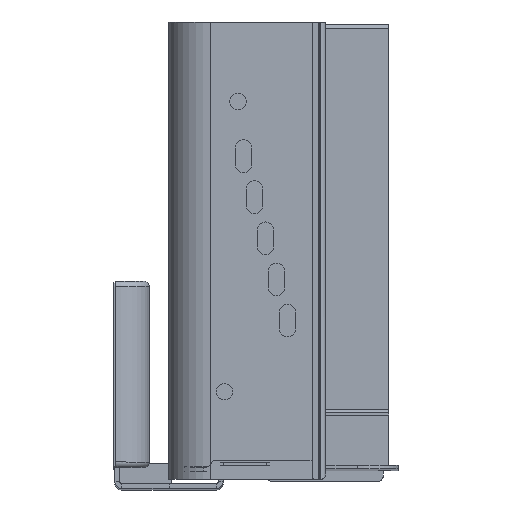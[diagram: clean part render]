
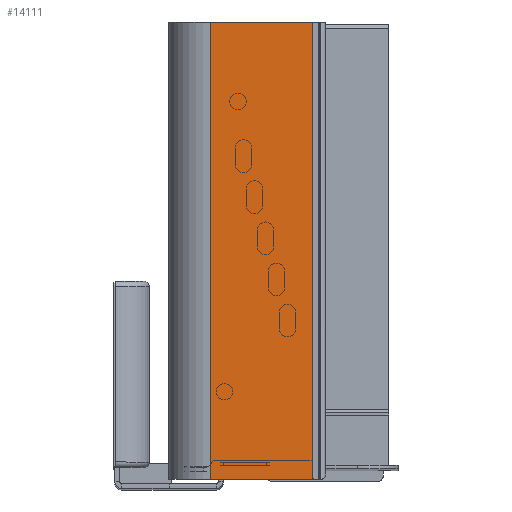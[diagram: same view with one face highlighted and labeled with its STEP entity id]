
A CAD part, top view. The second image highlights one B-rep face of the part: STEP entity #14111.
In plain terms, the highlighted planar face has unit normal (0, 0, 1).
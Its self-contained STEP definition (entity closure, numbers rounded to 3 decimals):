
#549=DIRECTION('',(-1.,0.,0.));
#550=VECTOR('',#549,38.);
#551=CARTESIAN_POINT('',(54.5,0.,225.5));
#552=LINE('',#551,#550);
#4495=DIRECTION('',(-1.,0.,0.));
#4496=VECTOR('',#4495,38.);
#4497=CARTESIAN_POINT('',(54.5,167.,225.5));
#4498=LINE('',#4497,#4496);
#4538=DIRECTION('',(0.,1.,0.));
#4539=VECTOR('',#4538,163.);
#4540=CARTESIAN_POINT('',(56.5,2.,225.5));
#4541=LINE('',#4540,#4539);
#4542=CARTESIAN_POINT('',(54.5,2.,225.5));
#4543=DIRECTION('',(0.,0.,1.));
#4544=DIRECTION('',(0.,-1.,0.));
#4545=AXIS2_PLACEMENT_3D('',#4542,#4543,#4544);
#4547=CARTESIAN_POINT('',(54.5,165.,225.5));
#4548=DIRECTION('',(0.,0.,1.));
#4549=DIRECTION('',(1.,0.,0.));
#4550=AXIS2_PLACEMENT_3D('',#4547,#4548,#4549);
#5347=DIRECTION('',(0.,1.,0.));
#5348=VECTOR('',#5347,167.);
#5349=CARTESIAN_POINT('',(16.5,0.,225.5));
#5350=LINE('',#5349,#5348);
#6252=CARTESIAN_POINT('',(16.5,0.,225.5));
#6254=VERTEX_POINT('',#6252);
#6262=CARTESIAN_POINT('',(16.5,167.,225.5));
#6263=VERTEX_POINT('',#6262);
#6264=CARTESIAN_POINT('',(54.5,0.,225.5));
#6265=VERTEX_POINT('',#6264);
#6268=CARTESIAN_POINT('',(54.5,167.,225.5));
#6269=VERTEX_POINT('',#6268);
#7505=CARTESIAN_POINT('',(56.5,2.,225.5));
#7506=CARTESIAN_POINT('',(56.5,165.,225.5));
#7507=VERTEX_POINT('',#7505);
#7508=VERTEX_POINT('',#7506);
#14094=CARTESIAN_POINT('',(56.5,0.,225.5));
#14095=DIRECTION('',(0.,0.,-1.));
#14096=DIRECTION('',(-1.,0.,0.));
#14097=AXIS2_PLACEMENT_3D('',#14094,#14095,#14096);
#14098=PLANE('',#14097);
#14100=ORIENTED_EDGE('',*,*,#14099,.F.);
#14102=ORIENTED_EDGE('',*,*,#14101,.F.);
#14103=ORIENTED_EDGE('',*,*,#8208,.T.);
#14105=ORIENTED_EDGE('',*,*,#14104,.T.);
#14106=ORIENTED_EDGE('',*,*,#14064,.F.);
#14108=ORIENTED_EDGE('',*,*,#14107,.F.);
#14109=EDGE_LOOP('',(#14100,#14102,#14103,#14105,#14106,#14108));
#14110=FACE_OUTER_BOUND('',#14109,.F.);
#4546=CIRCLE('',#4545,2.);
#4551=CIRCLE('',#4550,2.);
#8208=EDGE_CURVE('',#6265,#6254,#552,.T.);
#14064=EDGE_CURVE('',#6269,#6263,#4498,.T.);
#14099=EDGE_CURVE('',#7507,#7508,#4541,.T.);
#14101=EDGE_CURVE('',#6265,#7507,#4546,.T.);
#14104=EDGE_CURVE('',#6254,#6263,#5350,.T.);
#14107=EDGE_CURVE('',#7508,#6269,#4551,.T.);
#14111=ADVANCED_FACE('',(#14110),#14098,.F.);
